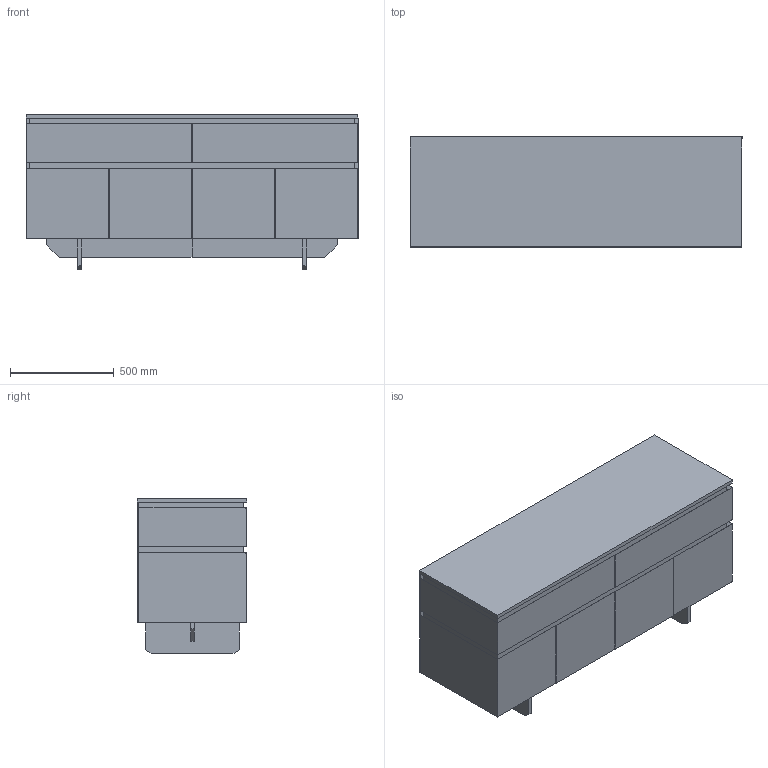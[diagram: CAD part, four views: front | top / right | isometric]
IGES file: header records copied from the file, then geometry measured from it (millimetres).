
Global section: file name: \\Archi-NAS\Comune\X GIOVANNI\MOBILI\ELEGNACE\ELEGANCE_10.igs; native system: Rhinoceros ( Feb 23 2021 ); preprocessor: Trout Lake IGES 012 Feb 23 2021; date: 230607.142626; units: millimetre
Bounding box: 1600 x 530 x 750 mm (x, y, z)
Surface area: 17417327.2 mm2 (no closed solid volume)
Topology: 0 solids, 0 shells, 250 faces, 1096 edges, 1096 vertices
Faces by surface type: bspline 250
